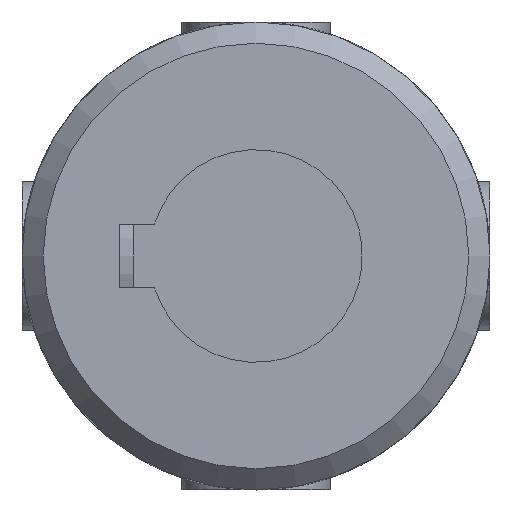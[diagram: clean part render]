
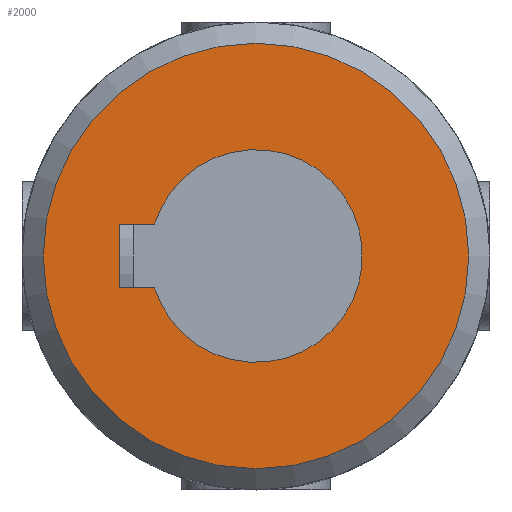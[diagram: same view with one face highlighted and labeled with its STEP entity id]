
A CAD part, front view. The second image highlights one B-rep face of the part: STEP entity #2000.
In plain terms, the highlighted planar face has unit normal (0, -1, 0).
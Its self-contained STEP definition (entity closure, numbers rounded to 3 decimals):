
#143=LINE('',#3665,#212);
#147=LINE('',#3692,#216);
#149=LINE('',#3700,#218);
#212=VECTOR('',#2578,1.63);
#216=VECTOR('',#2590,3.);
#218=VECTOR('',#2594,1.63);
#350=FACE_BOUND('',#647,.T.);
#486=FACE_OUTER_BOUND('',#646,.T.);
#646=EDGE_LOOP('',(#1630));
#647=EDGE_LOOP('',(#1631,#1632,#1633,#1634));
#771=CIRCLE('',#2182,5.);
#777=CIRCLE('',#2193,10.);
#922=VERTEX_POINT('',#3662);
#923=VERTEX_POINT('',#3664);
#926=VERTEX_POINT('',#3674);
#928=VERTEX_POINT('',#3690);
#937=VERTEX_POINT('',#3789);
#1161=EDGE_CURVE('',#923,#922,#143,.T.);
#1165=EDGE_CURVE('',#926,#923,#771,.T.);
#1169=EDGE_CURVE('',#922,#928,#147,.T.);
#1172=EDGE_CURVE('',#928,#926,#149,.T.);
#1182=EDGE_CURVE('',#937,#937,#777,.T.);
#1630=ORIENTED_EDGE('',*,*,#1182,.F.);
#1631=ORIENTED_EDGE('',*,*,#1161,.T.);
#1632=ORIENTED_EDGE('',*,*,#1169,.T.);
#1633=ORIENTED_EDGE('',*,*,#1172,.T.);
#1634=ORIENTED_EDGE('',*,*,#1165,.T.);
#1900=PLANE('',#2195);
#2000=ADVANCED_FACE('',(#486,#350),#1900,.F.);
#2182=AXIS2_PLACEMENT_3D('',#3675,#2584,#2585);
#2193=AXIS2_PLACEMENT_3D('',#3790,#2611,#2612);
#2195=AXIS2_PLACEMENT_3D('',#3966,#2619,#2620);
#2578=DIRECTION('',(0.,0.,-1.));
#2584=DIRECTION('center_axis',(0.,1.,0.));
#2585=DIRECTION('ref_axis',(0.3,0.,-0.954));
#2590=DIRECTION('',(-1.,0.,0.));
#2594=DIRECTION('',(0.,0.,1.));
#2611=DIRECTION('center_axis',(0.,1.,0.));
#2612=DIRECTION('ref_axis',(1.,0.,0.));
#2619=DIRECTION('center_axis',(0.,1.,0.));
#2620=DIRECTION('ref_axis',(0.,0.,1.));
#3662=CARTESIAN_POINT('',(1.5,-29.5,-6.4));
#3664=CARTESIAN_POINT('',(1.5,-29.5,-4.77));
#3665=CARTESIAN_POINT('',(1.5,-29.5,-2.385));
#3674=CARTESIAN_POINT('',(-1.5,-29.5,-4.77));
#3675=CARTESIAN_POINT('Origin',(0.,-29.5,0.));
#3690=CARTESIAN_POINT('',(-1.5,-29.5,-6.4));
#3692=CARTESIAN_POINT('',(0.75,-29.5,-6.4));
#3700=CARTESIAN_POINT('',(-1.5,-29.5,-3.2));
#3789=CARTESIAN_POINT('',(-10.,-29.5,0.));
#3790=CARTESIAN_POINT('Origin',(0.,-29.5,0.));
#3966=CARTESIAN_POINT('Origin',(0.,-29.5,0.));
